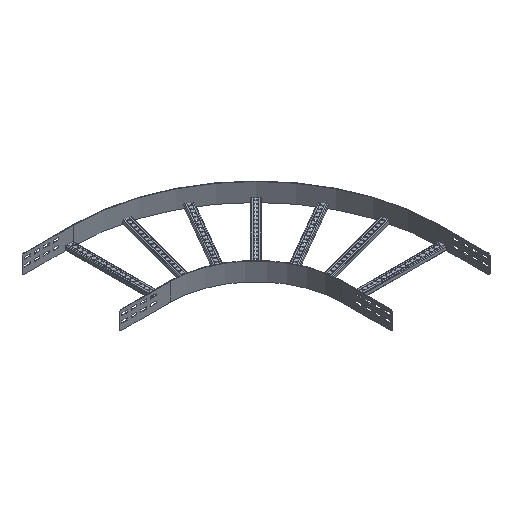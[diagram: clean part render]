
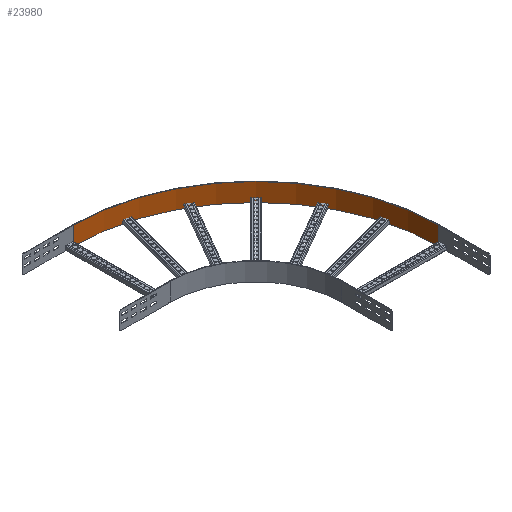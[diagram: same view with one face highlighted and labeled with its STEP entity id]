
A CAD part, isometric view. The second image highlights one B-rep face of the part: STEP entity #23980.
In plain terms, the highlighted cylindrical face has radius 955 mm (diameter 1910 mm), a partial arc.
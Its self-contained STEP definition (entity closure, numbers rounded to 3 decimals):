
#460=CARTESIAN_POINT('',(0.,-554.,-50.));
#470=DIRECTION('',(0.,0.,1.));
#480=DIRECTION('',(1.,0.,0.));
#490=AXIS2_PLACEMENT_3D('',#460,#470,#480);
#500=CIRCLE('',#490,955.);
#510=CARTESIAN_POINT('',(955.,-554.,-50.));
#520=VERTEX_POINT('',#510);
#530=CARTESIAN_POINT('',(0.,401.,-50.));
#540=VERTEX_POINT('',#530);
#550=EDGE_CURVE('',#520,#540,#500,.T.);
#4660=CARTESIAN_POINT('',(955.,-554.,-145.));
#4670=VERTEX_POINT('',#4660);
#4700=CARTESIAN_POINT('',(955.,-554.,0.));
#4710=DIRECTION('',(0.,0.,-1.));
#4720=VECTOR('',#4710,1.);
#4730=LINE('',#4700,#4720);
#4740=EDGE_CURVE('',#520,#4670,#4730,.T.);
#18880=CARTESIAN_POINT('',(0.,401.,-50.));
#18890=DIRECTION('',(0.,0.,1.));
#18900=VECTOR('',#18890,1.);
#18910=LINE('',#18880,#18900);
#18920=CARTESIAN_POINT('',(0.,401.,-145.));
#18930=VERTEX_POINT('',#18920);
#18940=EDGE_CURVE('',#18930,#540,#18910,.T.);
#23670=CARTESIAN_POINT('',(0.,-554.,-145.));
#23680=DIRECTION('',(0.,0.,1.));
#23690=DIRECTION('',(1.,0.,0.));
#23700=AXIS2_PLACEMENT_3D('',#23670,#23680,#23690);
#23710=CIRCLE('',#23700,955.);
#23720=EDGE_CURVE('',#4670,#18930,#23710,.T.);
#23870=CARTESIAN_POINT('',(0.,-554.,-50.));
#23880=DIRECTION('',(0.,0.,1.));
#23890=DIRECTION('',(1.,0.,0.));
#23900=AXIS2_PLACEMENT_3D('',#23870,#23880,#23890);
#23910=CYLINDRICAL_SURFACE('',#23900,955.);
#23920=ORIENTED_EDGE('',*,*,#4740,.F.);
#23930=ORIENTED_EDGE('',*,*,#23720,.F.);
#23940=ORIENTED_EDGE('',*,*,#18940,.F.);
#23950=ORIENTED_EDGE('',*,*,#550,.T.);
#23960=EDGE_LOOP('',(#23950,#23940,#23930,#23920));
#23970=FACE_OUTER_BOUND('',#23960,.T.);
#23980=ADVANCED_FACE('',(#23970),#23910,.F.);
